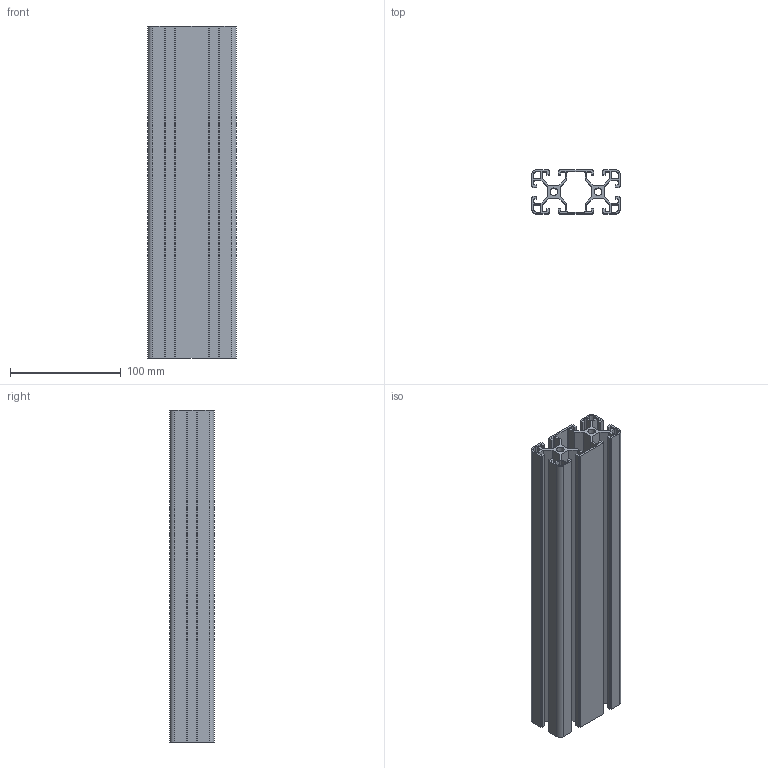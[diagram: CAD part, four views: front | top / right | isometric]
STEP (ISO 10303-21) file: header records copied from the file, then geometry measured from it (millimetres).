
FILE_DESCRIPTION (( 'STEP AP203' ), '1' );
FILE_NAME ('23-CE-4080Y-8.STEP', '2015-07-07T03:15:16', ( '' ), ( '' ), 'SwSTEP 2.0', 'SolidWorks 2013', '' );
FILE_SCHEMA (( 'CONFIG_CONTROL_DESIGN' ));
Length unit declared in the file: millimetre
Products named in the file (1): 23-CE-4080Y-8
Bounding box: 80 x 40 x 300 mm (x, y, z)
Volume: 247045.6 mm3; surface area: 246624.6 mm2
Topology: 1 solids, 1 shells, 194 faces, 576 edges, 384 vertices
Faces by surface type: plane 142, cylinder 52
Entity records: 6569 total; most frequent: CARTESIAN_POINT 1155, ORIENTED_EDGE 1152, DIRECTION 1070, EDGE_CURVE 576, VECTOR 472, LINE 472, VERTEX_POINT 384, AXIS2_PLACEMENT_3D 299
